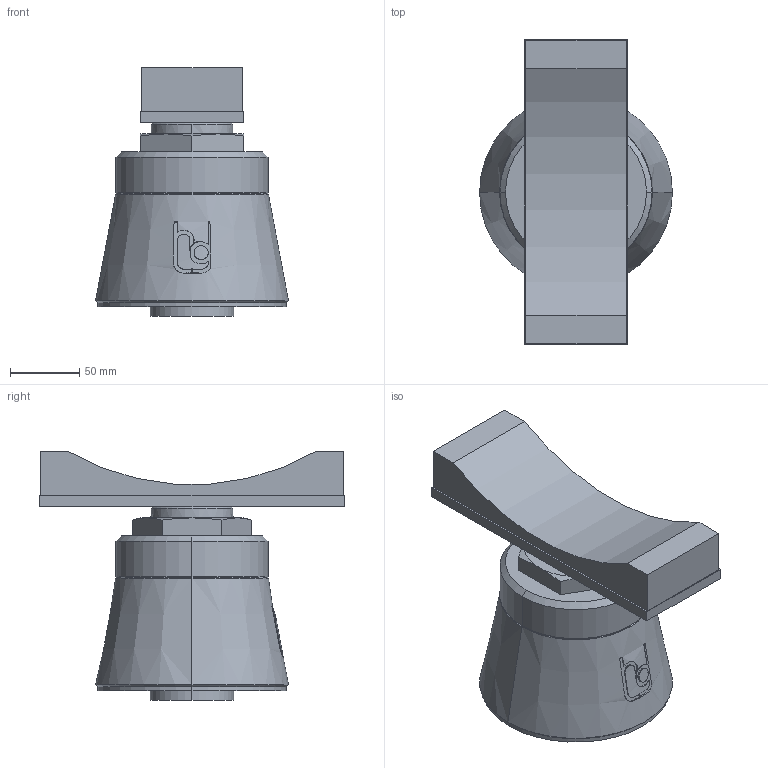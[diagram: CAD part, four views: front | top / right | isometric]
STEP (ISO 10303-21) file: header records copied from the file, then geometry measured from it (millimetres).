
FILE_DESCRIPTION(('STEP AP214'),'1');
FILE_NAME('RSRFS2_DN350.stp','2018-07-02T06:17:33',(' '),(' '),'Spatial InterOp 3D',' ',' ');
FILE_SCHEMA(('automotive_design'));
Length unit declared in the file: millimetre
Products named in the file (6): 1; 2; 3; 4; 5; 6
Bounding box: 139.44 x 220 x 180 mm (x, y, z)
Volume: 2171747 mm3; surface area: 235882.1 mm2
Topology: 6 solids, 6 shells, 127 faces, 313 edges, 202 vertices
Faces by surface type: plane 59, cylinder 37, cone 27, torus 4
Entity records: 5434 total; most frequent: CARTESIAN_POINT 1283, DIRECTION 639, ORIENTED_EDGE 626, EDGE_CURVE 313, AXIS2_PLACEMENT_3D 242, VERTEX_POINT 202, LINE 155, VECTOR 155
